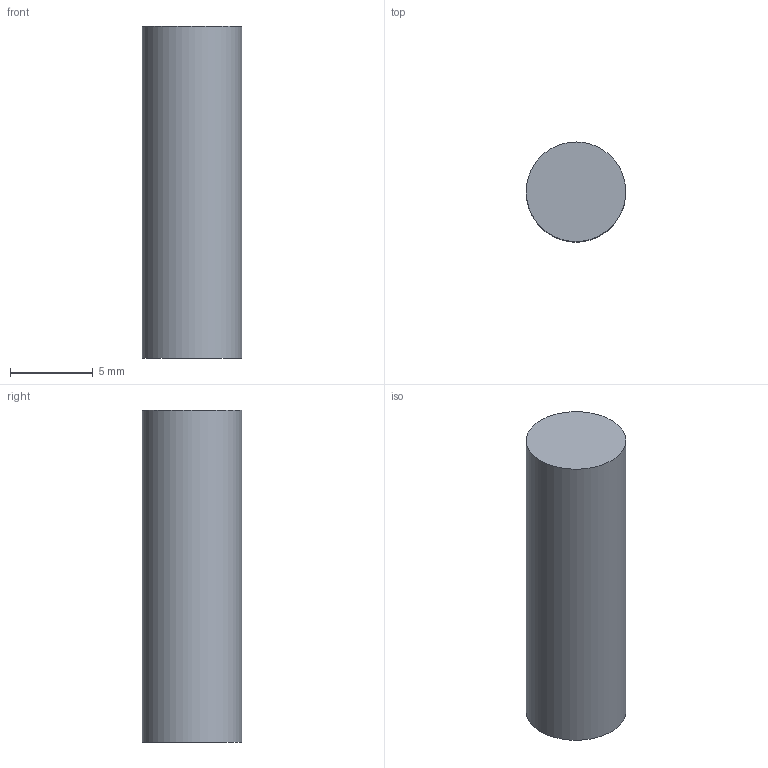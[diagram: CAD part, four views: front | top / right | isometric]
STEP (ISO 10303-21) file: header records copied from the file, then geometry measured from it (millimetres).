
FILE_DESCRIPTION ((), '1');
FILE_NAME ('C:\Users\tprototype\Desktop\TeslaGen Project\TeslaGen-v1 CAD Package\CNC Parts\Spark Gap\Tungsten Rods\Tungsten_Rods.stp', '2016-11-22T17:54:10', ('Unknown'), ('Unknown'), 'HarmonyWare STEP v1.7.11', 'HarmonyWare Translators', '');
FILE_SCHEMA (('CONFIG_CONTROL_DESIGN'));
Length unit declared in the file: millimetre
Products named in the file (1): product-name: product-name
Bounding box: 6 x 5.99 x 20 mm (x, y, z)
Volume: 570 mm3; surface area: 434.2 mm2
Topology: 1 solids, 1 shells, 3 faces, 3 edges, 2 vertices
Faces by surface type: bspline 3
Entity records: 172 total; most frequent: CARTESIAN_POINT 48, PERSON 8, ORGANIZATION 8, PERSON_AND_ORGANIZATION 8, ORIENTED_EDGE 6, PERSON_AND_ORGANIZATION_ROLE 5, CC_DESIGN_PERSON_AND_ORGANIZATION_ASSIGNMENT 5, CALENDAR_DATE 5
